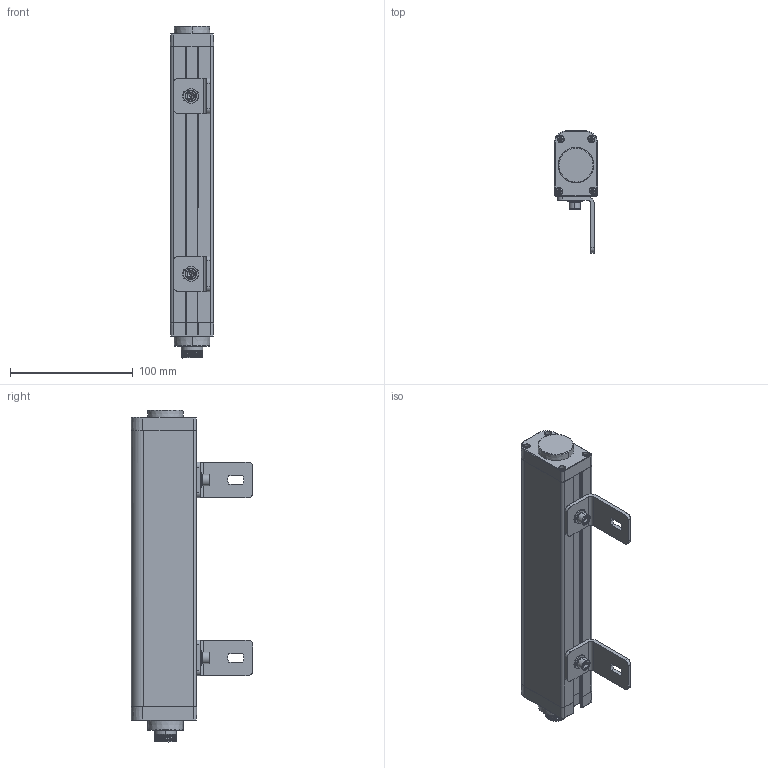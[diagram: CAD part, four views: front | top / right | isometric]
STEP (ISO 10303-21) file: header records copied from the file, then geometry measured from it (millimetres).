
FILE_DESCRIPTION((''),'2;1');
FILE_NAME('ESE8420_ASM','2021-07-12T14:33:35',('18720616900'),(''),'CREO PARAMETRIC BY PTC INC, 2019010','CREO PARAMETRIC BY PTC INC, 2019010','');
FILE_SCHEMA(('CONFIG_CONTROL_DESIGN'));
Length unit declared in the file: millimetre
Products named in the file (15): ESE--00; 000; ESE--000; HKCT2-1-SOLID1; HKCT11-1-SOLID1; 6_10001_ASM; ST-3-120001; L10001; M6-1-00; M6-1--00; M6-8--0001; 00; L1--0001_ASM; ESE8420_ASM
Assembly tree (22 placements, depth 3):
  ESE8420_ASM
    ESE--00
    000
    ESE--000
    ESE--000
    6_10001_ASM
      HKCT2-1-SOLID1
      HKCT11-1-SOLID1
    ST-3-120001  x8
    L1--0001_ASM  x2
      L10001
      M6-1-00
      M6-1--00
      M6-8--0001
      00
Bounding box: 35.3 x 99.3 x 270.58 mm (x, y, z)
Volume: 445819 mm3; surface area: 89255.2 mm2
Topology: 24 solids, 24 shells, 1203 faces, 3161 edges, 2022 vertices
Faces by surface type: plane 340, cylinder 306, cone 246, bspline 233, torus 64, sphere 14
Entity records: 41666 total; most frequent: CARTESIAN_POINT 27268, ORIENTED_EDGE 3088, DIRECTION 2720, EDGE_CURVE 1544, AXIS2_PLACEMENT_3D 1052, VERTEX_POINT 1019, EDGE_LOOP 661, VECTOR 616
